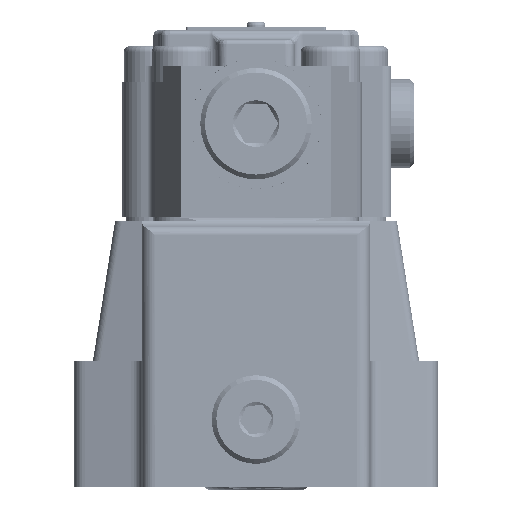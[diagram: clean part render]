
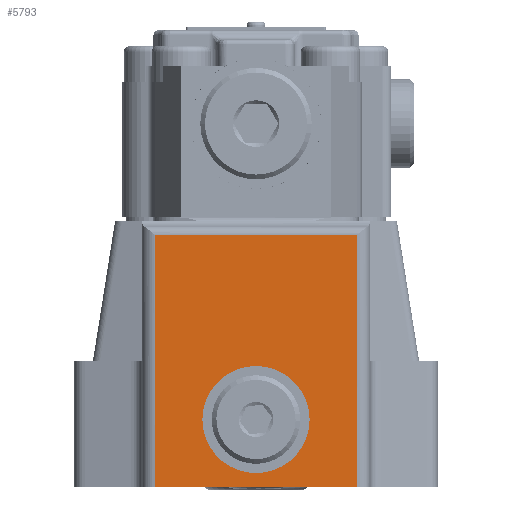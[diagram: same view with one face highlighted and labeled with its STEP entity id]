
A CAD part, left-side view. The second image highlights one B-rep face of the part: STEP entity #5793.
In plain terms, the highlighted planar face has unit normal (-1, 0, 0).
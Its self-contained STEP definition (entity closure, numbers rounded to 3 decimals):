
#1629=LINE('',#86877,#2546);
#1656=LINE('',#87159,#2573);
#1657=LINE('',#87217,#2574);
#1687=LINE('',#87295,#2604);
#2546=VECTOR('',#20940,1.);
#2573=VECTOR('',#21051,1.);
#2574=VECTOR('',#21056,1.);
#2604=VECTOR('',#21156,1.);
#4869=PLANE('',#18357);
#5793=ADVANCED_FACE('',(#6847,#6848),#4869,.F.);
#6847=FACE_BOUND('',#7594,.T.);
#6848=FACE_BOUND('',#7595,.T.);
#7594=EDGE_LOOP('',(#10254));
#7595=EDGE_LOOP('',(#10255,#10256,#10257,#10258));
#10254=ORIENTED_EDGE('',*,*,#15698,.T.);
#10255=ORIENTED_EDGE('',*,*,#15652,.T.);
#10256=ORIENTED_EDGE('',*,*,#15583,.T.);
#10257=ORIENTED_EDGE('',*,*,#15658,.T.);
#10258=ORIENTED_EDGE('',*,*,#15699,.T.);
#13647=VERTEX_POINT('',#86878);
#13648=VERTEX_POINT('',#86879);
#13708=VERTEX_POINT('',#87160);
#13713=VERTEX_POINT('',#87216);
#13726=VERTEX_POINT('',#87294);
#15583=EDGE_CURVE('',#13647,#13648,#1629,.T.);
#15652=EDGE_CURVE('',#13708,#13647,#1656,.T.);
#15658=EDGE_CURVE('',#13648,#13713,#1657,.T.);
#15698=EDGE_CURVE('',#13726,#13726,#17403,.T.);
#15699=EDGE_CURVE('',#13713,#13708,#1687,.T.);
#17403=CIRCLE('',#18356,11.5);
#18356=AXIS2_PLACEMENT_3D('',#87293,#21154,#21155);
#18357=AXIS2_PLACEMENT_3D('',#87296,#21157,#21158);
#20940=DIRECTION('',(0.,-1.,0.));
#21051=DIRECTION('',(0.,0.,-1.));
#21056=DIRECTION('',(0.,0.,1.));
#21154=DIRECTION('',(1.,0.,0.));
#21155=DIRECTION('',(0.,0.,-1.));
#21156=DIRECTION('',(0.,1.,0.));
#21157=DIRECTION('',(1.,0.,0.));
#21158=DIRECTION('',(0.,0.,1.));
#86877=CARTESIAN_POINT('',(540.888,66.994,0.));
#86878=CARTESIAN_POINT('',(540.888,71.902,0.));
#86879=CARTESIAN_POINT('',(540.888,28.413,0.));
#87159=CARTESIAN_POINT('',(540.888,71.902,0.));
#87160=CARTESIAN_POINT('',(540.888,71.902,54.));
#87216=CARTESIAN_POINT('',(540.888,28.413,54.));
#87217=CARTESIAN_POINT('',(540.888,28.413,0.));
#87293=CARTESIAN_POINT('',(540.888,50.157,14.5));
#87294=CARTESIAN_POINT('',(540.888,50.157,3.));
#87295=CARTESIAN_POINT('',(540.888,66.994,54.));
#87296=CARTESIAN_POINT('',(540.888,66.994,0.));
